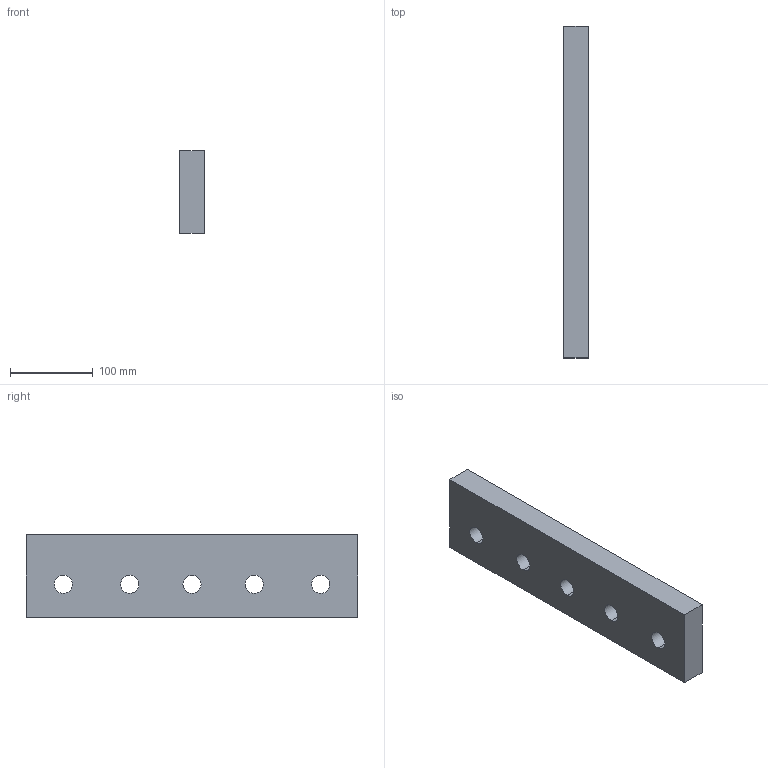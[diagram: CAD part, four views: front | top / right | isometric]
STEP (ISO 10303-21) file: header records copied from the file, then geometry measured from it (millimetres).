
FILE_DESCRIPTION(('CATIA V5 STEP Exchange'),'2;1');
FILE_NAME('C:\Users\Raffaele\Desktop\3D X SITO CF\A612\A611-100-4001\A612-100-4001.stp','2019-07-12T12:58:35+00:00',('none'),('none'),'CATIA Version 5 Release 20 GA (IN-10)','CATIA V5 STEP AP203','none');
FILE_SCHEMA(('CONFIG_CONTROL_DESIGN'));
Length unit declared in the file: millimetre
Products named in the file (1): A612-100-4001
Bounding box: 30 x 400 x 100 mm (x, y, z)
Volume: 1142980.1 mm3; surface area: 116565.9 mm2
Topology: 1 solids, 1 shells, 16 faces, 62 edges, 48 vertices
Faces by surface type: cylinder 10, plane 6
Entity records: 968 total; most frequent: CARTESIAN_POINT 407, ORIENTED_EDGE 124, DIRECTION 74, EDGE_CURVE 62, VERTEX_POINT 48, AXIS2_PLACEMENT_3D 37, EDGE_LOOP 26, VECTOR 22
